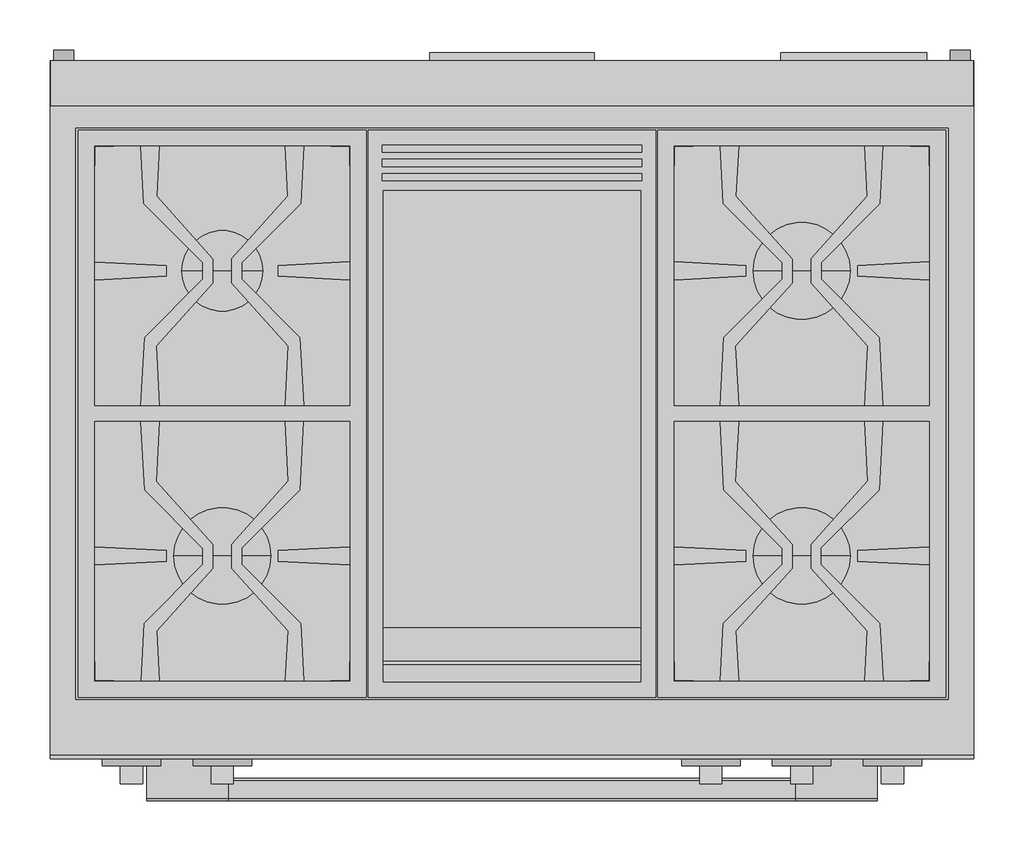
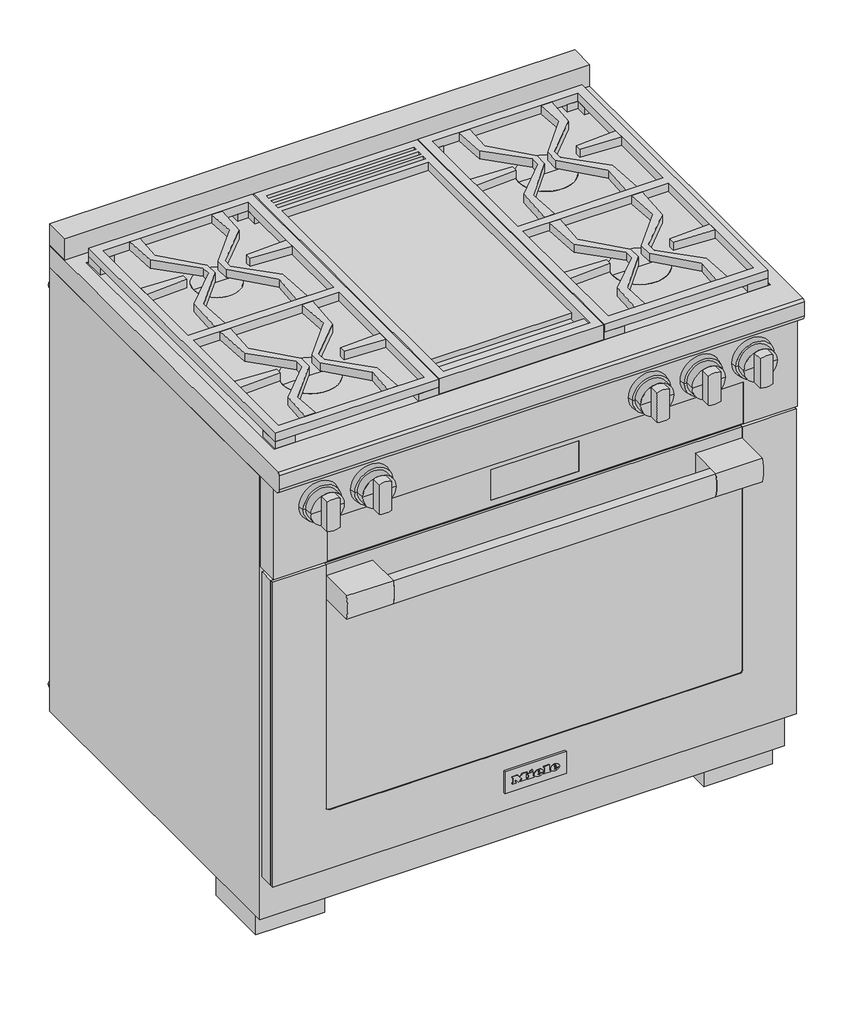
# Not in any storey: 1 proxy.
"""IFC4 building model written with IfcOpenShell, lengths in millimetres."""

from ifc_helpers import new_model, si_unit, origin, place, context, project, spatial, transform, mapped, element, save
from components import specialty_equipment_28f5a069, specialty_equipment_10349fa4

model = new_model("IFC4")

# Units and contexts
model_context = context("Model", 3, world=origin())
ifc_project = project(units=[si_unit("LENGTHUNIT", "METRE", prefix="MILLI")], contexts=[model_context])

# Site, building
site = spatial("IfcSite", under=ifc_project)
building = spatial("IfcBuilding", under=site)

# Proxy
placement = place(None, origin())
specialty_equipment_shape = specialty_equipment_28f5a069(model_context)
specialty_equipment_2_shape = specialty_equipment_10349fa4(model_context)
element("IfcBuildingElementProxy", 1, Name="11791630_USA_HR1936-3LP_EDST-CLS : 25193682_USA_11791630_HR1936-3LP_EDST-CLS", ObjectType="11791630_USA_HR1936-3LP_EDST-CLS : 25193682_USA_11791630_HR1936-3LP_EDST-CLS", at=placement, inside=building, context=model_context, shape_type="MappedRepresentation", body=[
    mapped(specialty_equipment_shape, transform((0.0, 0.0, 0.0), x_axis=(1.0, 0.0, 0.0), y_axis=(0.0, 1.0, 0.0), z_axis=(0.0, 0.0, 1.0))),
    mapped(specialty_equipment_2_shape, transform((0.0, 0.0, 0.0), x_axis=(1.0, 0.0, 0.0), y_axis=(0.0, 1.0, 0.0), z_axis=(0.0, 0.0, 1.0))),
])

save(model, "model.ifc")
